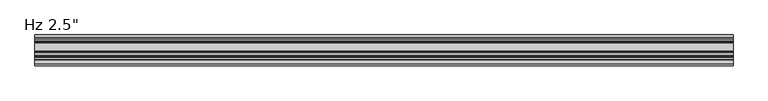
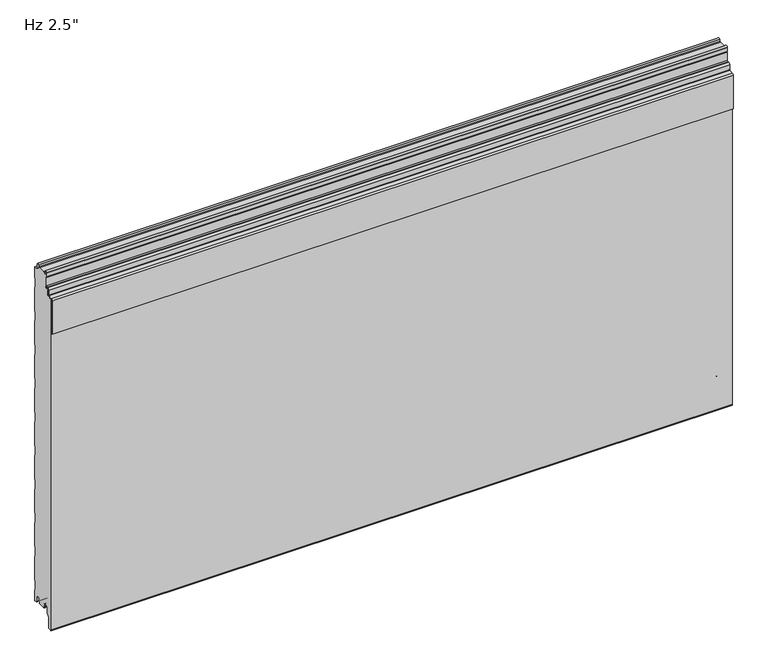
"""IFC4 building model written with IfcOpenShell, lengths in millimetres: plate geometry."""

from ifc_helpers import new_model, si_unit, frame, origin, place, context, project, spatial, polyline, circle_curve, source, transform, mapped, element, save
from ifc_brep_helpers import plane_surface, cylinder_surface, revolved_surface, advanced_brep


def plate_ab3201b3(model_context):
    return source(origin(), model_context, "Body", "AdvancedBrep", [
        advanced_brep(
        [(730.0, -42.4008679, 735.9534183), (730.0, -42.4008679, 754.6986183), (730.0, -43.9248679, 754.6986183), (730.0, -43.9248679, 735.9534183), (730.0, -45.4488679, 734.4294183), (730.0, -48.5476679, 734.4294183), (730.0, -52.0020679, 730.9750183), (730.0, -52.0020679, 719.762461), (730.0, -52.6976552, 719.0033606), (730.0, -62.2416507, 717.808533), (730.0, -65.024, 714.7721316), (730.0, -65.0360323, 639.2048183), (730.0, -63.5, 639.2048183), (730.0, -63.5, 714.7721316), (730.0, -62.1088254, 716.2903323), (730.0, -52.5648299, 717.4851599), (730.0, -50.4780679, 719.762461), (730.0, -50.4780679, 730.9750183), (730.0, -48.5476679, 732.9054183), (730.0, -45.4488679, 732.9054183), (-730.0, -42.4008679, 735.9534183), (-730.0, -45.4488679, 732.9054183), (-730.0, -48.5476679, 732.9054183), (-730.0, -50.4780679, 730.9750183), (-730.0, -50.4780679, 719.762461), (-730.0, -52.5648299, 717.4851599), (-730.0, -62.1088254, 716.2903323), (-730.0, -63.5, 714.7721316), (-730.0, -63.5, 639.2048183), (-730.0, -65.0360323, 639.2048183), (-730.0, -65.0360323, 714.7721316), (-730.0, -62.2416507, 717.808533), (-730.0, -52.6976552, 719.0033606), (-730.0, -52.0020679, 719.762461), (-730.0, -52.0020679, 730.9750183), (-730.0, -48.5476679, 734.4294183), (-730.0, -45.4488679, 734.4294183), (-730.0, -43.9248679, 735.9534183), (-730.0, -43.9248679, 754.6986183), (-730.0, -42.4008679, 754.6986183)],
        [
            (0, 1),
            (1, 2),
            (2, 3),
            (3, 4, circle_curve(frame((730.0, -45.4488679, 735.9534183), z_axis=(-1.0, 0.0, 0.0), x_axis=(0.0, 1.0, 0.0)), 1.524)),
            (4, 5),
            (5, 6, circle_curve(frame((730.0, -48.5476679, 730.9750183), z_axis=(1.0, 0.0, 0.0), x_axis=(0.0, 1.0, 0.0)), 3.4544)),
            (6, 7),
            (7, 8, circle_curve(frame((730.0, -52.7640679, 719.762461), z_axis=(-1.0, 0.0, 0.0), x_axis=(0.0, 1.0, 0.0)), 0.762)),
            (8, 9),
            (9, 10, circle_curve(frame((730.0, -61.976, 714.7721316), z_axis=(1.0, 0.0, 0.0), x_axis=(0.0, 1.0, 0.0)), 3.048)),
            (10, 11),
            (11, 12),
            (12, 13),
            (13, 14, circle_curve(frame((730.0, -61.976, 714.7721316), z_axis=(-1.0, 0.0, 0.0), x_axis=(0.0, 1.0, 0.0)), 1.524)),
            (14, 15),
            (15, 16, circle_curve(frame((730.0, -52.7640679, 719.762461), z_axis=(1.0, 0.0, 0.0), x_axis=(0.0, 1.0, 0.0)), 2.286)),
            (16, 17),
            (17, 18, circle_curve(frame((730.0, -48.5476679, 730.9750183), z_axis=(-1.0, 0.0, 0.0), x_axis=(0.0, 1.0, 0.0)), 1.9304)),
            (18, 19),
            (19, 0, circle_curve(frame((730.0, -45.4488679, 735.9534183), z_axis=(1.0, 0.0, 0.0), x_axis=(0.0, 1.0, 0.0)), 3.048)),
            (20, 21, circle_curve(frame((-730.0, -45.4488679, 735.9534183), z_axis=(-1.0, 0.0, 0.0), x_axis=(0.0, 1.0, 0.0)), 3.048)),
            (21, 22),
            (22, 23, circle_curve(frame((-730.0, -48.5476679, 730.9750183), z_axis=(1.0, 0.0, 0.0), x_axis=(0.0, 1.0, 0.0)), 1.9304)),
            (23, 24),
            (24, 25, circle_curve(frame((-730.0, -52.7640679, 719.762461), z_axis=(-1.0, 0.0, 0.0), x_axis=(0.0, 1.0, 0.0)), 2.286)),
            (25, 26),
            (26, 27, circle_curve(frame((-730.0, -61.976, 714.7721316), z_axis=(1.0, 0.0, 0.0), x_axis=(0.0, 1.0, 0.0)), 1.524)),
            (27, 28),
            (28, 29),
            (29, 30),
            (30, 31, circle_curve(frame((-730.0, -61.976, 714.7721316), z_axis=(-1.0, 0.0, 0.0), x_axis=(0.0, 1.0, 0.0)), 3.048)),
            (31, 32),
            (32, 33, circle_curve(frame((-730.0, -52.7640679, 719.762461), z_axis=(1.0, 0.0, 0.0), x_axis=(0.0, 1.0, 0.0)), 0.762)),
            (33, 34),
            (34, 35, circle_curve(frame((-730.0, -48.5476679, 730.9750183), z_axis=(-1.0, 0.0, 0.0), x_axis=(0.0, 1.0, 0.0)), 3.4544)),
            (35, 36),
            (36, 37, circle_curve(frame((-730.0, -45.4488679, 735.9534183), z_axis=(1.0, 0.0, 0.0), x_axis=(0.0, 1.0, 0.0)), 1.524)),
            (37, 38),
            (38, 39),
            (39, 20),
            (2, 38),
            (37, 3),
            (15, 25),
            (24, 16),
            (7, 33),
            (32, 8),
            (5, 35),
            (34, 6),
            (1, 39),
            (36, 4),
            (9, 31),
            (30, 10),
            (13, 27),
            (26, 14),
            (0, 20),
            (12, 28),
            (29, 11),
            (23, 17),
            (18, 22),
            (21, 19),
        ],
        [
            plane_surface(frame((730.0, -63.5, 754.6986183), z_axis=(1.0, 0.0, 0.0), x_axis=(0.0, 0.0, -1.0))),
            plane_surface(frame((-730.0, -63.5, 754.6986183), z_axis=(-1.0, 0.0, 0.0), x_axis=(0.0, 0.0, -1.0))),
            plane_surface(frame((730.0, -43.9248679, 735.9534183), z_axis=(0.0, -1.0, 0.0), x_axis=(-1.0, 0.0, 0.0))),
            cylinder_surface(frame((730.0, -52.7640679, 719.762461), z_axis=(1.0, 0.0, 0.0), x_axis=(0.0, 1.0, 0.0)), 2.286),
            revolved_surface(polyline([(-730.0, -52.0020679, 719.762461), (730.0, -52.0020679, 719.762461)]), (730.0, -52.7640679, 719.762461), (-1.0, 0.0, 0.0)),
            cylinder_surface(frame((730.0, -48.5476679, 730.9750183), z_axis=(1.0, 0.0, 0.0), x_axis=(0.0, 1.0, 0.0)), 3.4544),
            plane_surface(frame((730.0, -43.9248679, 754.6986183), z_axis=(0.0, 0.0, 1.0), x_axis=(-1.0, 0.0, 0.0))),
            revolved_surface(polyline([(-730.0, -43.9248679, 735.9534183), (730.0, -43.9248679, 735.9534183)]), (730.0, -45.4488679, 735.9534183), (-1.0, 0.0, 0.0)),
            cylinder_surface(frame((730.0, -61.976, 714.7721316), z_axis=(1.0, 0.0, 0.0), x_axis=(0.0, 1.0, 0.0)), 3.048),
            revolved_surface(polyline([(-730.0, -60.452, 714.7721316), (730.0, -60.452, 714.7721316)]), (730.0, -61.976, 714.7721316), (-1.0, 0.0, 0.0)),
            plane_surface(frame((730.0, -42.4008679, 754.6986183), z_axis=(0.0, 1.0, 0.0), x_axis=(-1.0, 0.0, 0.0))),
            plane_surface(frame((730.0, -52.5648299, 717.4851599), z_axis=(0.0, 0.12422187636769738, -0.9922544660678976), x_axis=(-1.0, 0.0, 0.0))),
            plane_surface(frame((730.0, -63.5, 714.7721316), z_axis=(0.0, 1.0, 0.0), x_axis=(-1.0, 0.0, 0.0))),
            plane_surface(frame((730.0, -62.2416507, 717.808533), z_axis=(0.0, -0.12422187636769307, 0.9922544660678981), x_axis=(-1.0, 0.0, 0.0))),
            plane_surface(frame((730.0, -48.5476679, 734.4294183), z_axis=(0.0, 0.0, 1.0), x_axis=(-1.0, 0.0, 0.0))),
            plane_surface(frame((730.0, -65.0360323, 639.2048183), z_axis=(0.0, -1.0, 0.0), x_axis=(-1.0, 0.0, 0.0))),
            plane_surface(frame((730.0, -63.5, 639.2048183), z_axis=(0.0, 0.0, -1.0), x_axis=(-1.0, 0.0, 0.0))),
            plane_surface(frame((730.0, -50.4780679, 730.9750183), z_axis=(0.0, 1.0, 0.0), x_axis=(-1.0, 0.0, 0.0))),
            plane_surface(frame((730.0, -45.4488679, 732.9054183), z_axis=(0.0, 0.0, -1.0), x_axis=(-1.0, 0.0, 0.0))),
            plane_surface(frame((730.0, -52.0020679, 719.762461), z_axis=(0.0, -1.0, 0.0), x_axis=(-1.0, 0.0, 0.0))),
            revolved_surface(polyline([(-730.0, -46.6172679, 730.9750183), (730.0, -46.6172679, 730.9750183)]), (730.0, -48.5476679, 730.9750183), (-1.0, 0.0, 0.0)),
            cylinder_surface(frame((730.0, -45.4488679, 735.9534183), z_axis=(1.0, 0.0, 0.0), x_axis=(0.0, 1.0, 0.0)), 3.048),
        ],
        [
            (0, [[1, 2, 3, 4, 5, 6, 7, 8, 9, 10, 11, 12, 13, 14, 15, 16, 17, 18, 19, 20]]),
            (1, [[21, 22, 23, 24, 25, 26, 27, 28, 29, 30, 31, 32, 33, 34, 35, 36, 37, 38, 39, 40]]),
            (2, [[41, -38, 42, -3]]),
            (3, [[43, -25, 44, -16]]),
            (4, [[45, -33, 46, -8]]),
            (5, [[47, -35, 48, -6]]),
            (6, [[49, -39, -41, -2]]),
            (7, [[-42, -37, 50, -4]]),
            (8, [[51, -31, 52, -10]]),
            (9, [[53, -27, 54, -14]]),
            (10, [[55, -40, -49, -1]]),
            (11, [[-54, -26, -43, -15]]),
            (12, [[56, -28, -53, -13]]),
            (13, [[-46, -32, -51, -9]]),
            (14, [[-50, -36, -47, -5]]),
            (15, [[-52, -30, 57, -11]]),
            (16, [[-57, -29, -56, -12]]),
            (17, [[-44, -24, 58, -17]]),
            (18, [[59, -22, 60, -19]]),
            (19, [[-48, -34, -45, -7]]),
            (20, [[-58, -23, -59, -18]]),
            (21, [[-60, -21, -55, -20]]),
        ],
    ),
        advanced_brep(
        [(-730.0, -35.170875, 1.0316999), (-730.0, -34.0014003, 2.2328239), (-730.0, -34.0014003, 5.9912173), (-730.0, -35.3998791, 5.9912173), (-730.0, -35.3998791, 8.6903283), (-730.0, -38.7498744, 12.0403236), (-730.0, -43.1498656, 12.0403236), (-730.0, -46.4998609, 8.6903283), (-730.0, -46.4998609, -3.1205608), (-730.0, -46.9977778, -4.3226385), (-730.0, -52.4998489, -9.8247096), (-730.0, -52.4998489, -31.9198392), (-730.0, -54.7184509, -34.5765709), (-730.0, -59.7002718, -35.0125699), (-730.0, -62.4945967, -32.4521176), (-730.0, -62.5, 713.515622), (-730.0, -60.7149259, 715.4669057), (-730.0, -52.2539491, 716.221161), (-730.0, -49.4906462, 719.3653654), (-730.0, -49.4906462, 729.4583308), (-730.0, -48.5392375, 730.4097394), (-730.0, -45.3955822, 730.4097394), (-730.0, -41.3961292, 734.4091924), (-730.0, -41.3961292, 755.5895515), (-730.0, -43.376977, 756.7334028), (-730.0, -43.0217167, 765.706811), (-730.0, -38.8211391, 765.7037148), (-730.0, -38.5767242, 761.6977997), (-730.0, -36.7819116, 759.9686884), (-730.0, -33.997365, 759.9686884), (-730.0, -33.997365, 760.9686884), (-730.0, -35.584865, 760.9686884), (-730.0, -34.5535534, 762.0), (-730.0, -18.6184525, 762.0), (-730.0, -17.5871409, 760.9686884), (-730.0, -19.0015288, 760.9686884), (-730.0, -19.0015288, 759.9686884), (-730.0, -16.6743462, 759.9686884), (-730.0, -14.9256429, 761.6513685), (-730.0, -14.7059822, 765.7921924), (-730.0, -10.4046442, 765.7931719), (-730.0, -9.9974365, 757.3016499), (-730.0, -6.0026007, 753.4787013), (-730.0, -1.0, 753.4787013), (-730.0, -1.0, 728.9790963), (-730.0, -2.2002307, 727.5934634), (-730.0, -2.2002307, 708.2182971), (-730.0, -1.0, 706.8326641), (-730.0, -1.0, 652.7792487), (-730.0, -2.2002307, 651.3936158), (-730.0, -2.2002307, 632.0184495), (-730.0, -1.0, 630.6328165), (-730.0, -1.0, 576.5794011), (-730.0, -2.2002307, 575.1937682), (-730.0, -2.2002307, 555.8186019), (-730.0, -1.0, 554.4329689), (-730.0, -1.0, 500.3795535), (-730.0, -2.2002307, 498.9939206), (-730.0, -2.2002307, 479.6187543), (-730.0, -1.0, 478.2331213), (-730.0, -1.0, 424.1797059), (-730.0, -2.2002307, 422.794073), (-730.0, -2.2002307, 403.4189067), (-730.0, -1.0, 402.0332737), (-730.0, -1.0, 347.9798583), (-730.0, -2.2002307, 346.5942254), (-730.0, -2.2002307, 327.2190591), (-730.0, -1.0, 325.8334261), (-730.0, -1.0, 271.7800107), (-730.0, -2.2002307, 270.3943778), (-730.0, -2.2002307, 251.0192115), (-730.0, -1.0, 249.6335785), (-730.0, -1.0, 195.5801631), (-730.0, -2.2002307, 194.1945302), (-730.0, -2.2002307, 174.8193639), (-730.0, -1.0, 173.4337309), (-730.0, -1.0, 119.3803155), (-730.0, -2.2002307, 117.9946826), (-730.0, -2.2002307, 98.6195163), (-730.0, -1.0, 97.2338833), (-730.0, -1.0, 43.1804679), (-730.0, -2.2002307, 41.794835), (-730.0, -2.2002307, 22.4196687), (-730.0, -0.9999916, 21.034026), (-730.0, -0.9999916, -3.4662506), (-730.0, -5.2315389, -3.4662506), (-730.0, -7.0015331, -1.6962564), (-730.0, -7.0015331, 8.7237222), (-730.0, -10.301529, 12.023718), (-730.0, -14.7015202, 12.023718), (-730.0, -18.0015159, 8.7237223), (-730.0, -18.0015159, 6.0315125), (-730.0, -19.0015105, 6.0315125), (-730.0, -19.0015105, 2.0313089), (-730.0, -18.0015192, 1.0313117), (-730.0, -19.0328308, 0.0), (-730.0, -34.1391751, 0.0), (730.0, -35.170875, 1.0316999), (730.0, -34.1391751, 0.0), (730.0, -19.0328308, 0.0), (730.0, -18.0015192, 1.0313117), (730.0, -19.0015105, 2.0313089), (730.0, -19.0015105, 6.0315125), (730.0, -18.0015159, 6.0315125), (730.0, -18.0015159, 8.7237223), (730.0, -14.7015202, 12.023718), (730.0, -10.301529, 12.023718), (730.0, -7.0015331, 8.7237222), (730.0, -7.0015331, -1.6962564), (730.0, -5.2315389, -3.4662506), (730.0, -0.9999916, -3.4662506), (730.0, -0.9999916, 21.034026), (730.0, -2.2002307, 22.4196687), (730.0, -2.2002307, 41.794835), (730.0, -1.0, 43.1804679), (730.0, -1.0, 97.2338833), (730.0, -2.2002307, 98.6195163), (730.0, -2.2002307, 117.9946826), (730.0, -1.0, 119.3803155), (730.0, -1.0, 173.4337309), (730.0, -2.2002307, 174.8193639), (730.0, -2.2002307, 194.1945302), (730.0, -1.0, 195.5801631), (730.0, -1.0, 249.6335785), (730.0, -2.2002307, 251.0192115), (730.0, -2.2002307, 270.3943778), (730.0, -1.0, 271.7800107), (730.0, -1.0, 325.8334261), (730.0, -2.2002307, 327.2190591), (730.0, -2.2002307, 346.5942254), (730.0, -1.0, 347.9798583), (730.0, -1.0, 402.0332737), (730.0, -2.2002307, 403.4189067), (730.0, -2.2002307, 422.794073), (730.0, -1.0, 424.1797059), (730.0, -1.0, 478.2331213), (730.0, -2.2002307, 479.6187543), (730.0, -2.2002307, 498.9939206), (730.0, -1.0, 500.3795535), (730.0, -1.0, 554.4329689), (730.0, -2.2002307, 555.8186019), (730.0, -2.2002307, 575.1937682), (730.0, -1.0, 576.5794011), (730.0, -1.0, 630.6328165), (730.0, -2.2002307, 632.0184495), (730.0, -2.2002307, 651.3936158), (730.0, -1.0, 652.7792487), (730.0, -1.0, 706.8326641), (730.0, -2.2002307, 708.2182971), (730.0, -2.2002307, 727.5934634), (730.0, -1.0, 728.9790963), (730.0, -1.0, 753.4787013), (730.0, -6.0026007, 753.4787013), (730.0, -9.9974365, 757.3016499), (730.0, -10.4046442, 765.7931719), (730.0, -14.7059822, 765.7921924), (730.0, -14.9256429, 761.6513685), (730.0, -16.6743462, 759.9686884), (730.0, -19.0015288, 759.9686884), (730.0, -19.0015288, 760.9686884), (730.0, -17.5871409, 760.9686884), (730.0, -18.6184525, 762.0), (730.0, -34.5535534, 762.0), (730.0, -35.584865, 760.9686884), (730.0, -33.997365, 760.9686884), (730.0, -33.997365, 759.9686884), (730.0, -36.7819116, 759.9686884), (730.0, -38.5767242, 761.6977997), (730.0, -38.8211391, 765.7037148), (730.0, -43.0217167, 765.706811), (730.0, -43.376977, 756.7334028), (730.0, -41.3961292, 755.5895515), (730.0, -41.3961292, 734.4091924), (730.0, -45.3955822, 730.4097394), (730.0, -48.5392375, 730.4097394), (730.0, -49.4906462, 729.4583308), (730.0, -49.4906462, 719.3653654), (730.0, -52.2539491, 716.221161), (730.0, -60.7149259, 715.4669057), (730.0, -62.5, 713.515622), (730.0, -62.5, -32.4521176), (730.0, -59.7002718, -35.0125699), (730.0, -54.7184509, -34.5765709), (730.0, -52.4998489, -31.9198392), (730.0, -52.4998489, -9.8247096), (730.0, -46.9977778, -4.3226385), (730.0, -46.4998609, -3.1205608), (730.0, -46.4998609, 8.6903283), (730.0, -43.1498656, 12.0403236), (730.0, -38.7498744, 12.0403236), (730.0, -35.3998791, 8.6903283), (730.0, -35.3998791, 5.9912173), (730.0, -34.0014003, 5.9912173), (730.0, -34.0014003, 2.2328239)],
        [
            (0, 1, circle_curve(frame((-730.0, -35.2013969, 2.2313092), z_axis=(1.0, 0.0, 0.0), x_axis=(0.0, 0.0, -1.0)), 1.1999976)),
            (1, 2),
            (2, 3),
            (3, 4),
            (4, 5, circle_curve(frame((-730.0, -38.7498744, 8.6903283), z_axis=(1.0, 0.0, 0.0), x_axis=(0.0, 0.0, -1.0)), 3.3499953)),
            (5, 6),
            (6, 7, circle_curve(frame((-730.0, -43.1498656, 8.6903283), z_axis=(1.0, 0.0, 0.0), x_axis=(0.0, 0.0, -1.0)), 3.3499953)),
            (7, 8),
            (8, 9, circle_curve(frame((-730.0, -48.1998555, -3.1205608), z_axis=(-1.0, 0.0, 0.0), x_axis=(0.0, 0.0, -1.0)), 1.6999946)),
            (9, 10),
            (10, 11),
            (11, 12, circle_curve(frame((-730.0, -55.1998415, -31.9198392), z_axis=(-1.0, 0.0, 0.0), x_axis=(0.0, 0.0, -1.0)), 2.6999926)),
            (12, 13),
            (13, 14, circle_curve(frame((-730.0, -59.9243575, -32.4521176), z_axis=(-1.0, 0.0, 0.0), x_axis=(0.0, 0.0, -1.0)), 2.5702393)),
            (14, 15),
            (15, 16, circle_curve(frame((-730.0, -60.5409784, 713.515622), z_axis=(-1.0, 0.0, 0.0), x_axis=(0.0, 0.0, -1.0)), 1.9590216)),
            (16, 17),
            (17, 18, circle_curve(frame((-730.0, -52.5180321, 719.2396267), z_axis=(1.0, 0.0, 0.0), x_axis=(0.0, 0.0, -1.0)), 3.0299959)),
            (18, 19),
            (19, 20, circle_curve(frame((-730.0, -48.5392375, 729.4583308), z_axis=(-1.0, 0.0, 0.0), x_axis=(0.0, 0.0, -1.0)), 0.9514087)),
            (20, 21),
            (21, 22, circle_curve(frame((-730.0, -45.3955822, 734.4091924), z_axis=(1.0, 0.0, 0.0), x_axis=(0.0, 0.0, -1.0)), 3.9994529)),
            (22, 23),
            (23, 24),
            (24, 25),
            (25, 26, circle_curve(frame((-730.0, -40.921488, 765.6236622), z_axis=(-1.0, 0.0, 0.0), x_axis=(0.0, 0.0, -1.0)), 2.1018739)),
            (26, 27),
            (27, 28, circle_curve(frame((-730.0, -36.7383506, 761.8099653), z_axis=(1.0, 0.0, 0.0), x_axis=(0.0, 0.0, -1.0)), 1.8417922)),
            (28, 29),
            (29, 30),
            (30, 31),
            (31, 32),
            (32, 33),
            (33, 34),
            (34, 35),
            (35, 36),
            (36, 37),
            (37, 38, circle_curve(frame((-730.0, -16.6743462, 761.7186869), z_axis=(1.0, 0.0, 0.0), x_axis=(0.0, 0.0, 1.0)), 1.7499985)),
            (38, 39),
            (39, 40, circle_curve(frame((-730.0, -12.5552871, 765.6781032), z_axis=(-1.0, 0.0, 0.0), x_axis=(0.0, 0.0, 1.0)), 2.153719)),
            (40, 41),
            (41, 42, circle_curve(frame((-730.0, -5.9867338, 757.4939817), z_axis=(1.0, 0.0, 0.0), x_axis=(0.0, 0.0, 1.0)), 4.0153117)),
            (42, 43),
            (43, 44),
            (44, 45),
            (45, 46),
            (46, 47),
            (47, 48),
            (48, 49),
            (49, 50),
            (50, 51),
            (51, 52),
            (52, 53),
            (53, 54),
            (54, 55),
            (55, 56),
            (56, 57),
            (57, 58),
            (58, 59),
            (59, 60),
            (60, 61),
            (61, 62),
            (62, 63),
            (63, 64),
            (64, 65),
            (65, 66),
            (66, 67),
            (67, 68),
            (68, 69),
            (69, 70),
            (70, 71),
            (71, 72),
            (72, 73),
            (73, 74),
            (74, 75),
            (75, 76),
            (76, 77),
            (77, 78),
            (78, 79),
            (79, 80),
            (80, 81),
            (81, 82),
            (82, 83),
            (83, 84),
            (84, 85),
            (85, 86, circle_curve(frame((-730.0, -5.2315389, -1.6962564), z_axis=(-1.0, 0.0, 0.0), x_axis=(0.0, 0.0, 1.0)), 1.7699942)),
            (86, 87),
            (87, 88, circle_curve(frame((-730.0, -10.301529, 8.7237222), z_axis=(1.0, 0.0, 0.0), x_axis=(0.0, 0.0, 1.0)), 3.2999959)),
            (88, 89),
            (89, 90, circle_curve(frame((-730.0, -14.7015202, 8.7237223), z_axis=(1.0, 0.0, 0.0), x_axis=(0.0, 0.0, 1.0)), 3.2999957)),
            (90, 91),
            (91, 92),
            (92, 93),
            (93, 94, circle_curve(frame((-730.0, -18.0015133, 2.0313089), z_axis=(1.0, 0.0, 0.0), x_axis=(0.0, 0.0, 1.0)), 0.9999972)),
            (94, 95),
            (95, 96),
            (96, 0),
            (97, 98),
            (98, 99),
            (99, 100),
            (100, 101, circle_curve(frame((730.0, -18.0015133, 2.0313089), z_axis=(-1.0, 0.0, 0.0), x_axis=(0.0, 0.0, 1.0)), 0.9999972)),
            (101, 102),
            (102, 103),
            (103, 104),
            (104, 105, circle_curve(frame((730.0, -14.7015202, 8.7237223), z_axis=(-1.0, 0.0, 0.0), x_axis=(0.0, 0.0, 1.0)), 3.2999957)),
            (105, 106),
            (106, 107, circle_curve(frame((730.0, -10.301529, 8.7237222), z_axis=(-1.0, 0.0, 0.0), x_axis=(0.0, 0.0, 1.0)), 3.2999959)),
            (107, 108),
            (108, 109, circle_curve(frame((730.0, -5.2315389, -1.6962564), z_axis=(1.0, 0.0, 0.0), x_axis=(0.0, 0.0, 1.0)), 1.7699942)),
            (109, 110),
            (110, 111),
            (111, 112),
            (112, 113),
            (113, 114),
            (114, 115),
            (115, 116),
            (116, 117),
            (117, 118),
            (118, 119),
            (119, 120),
            (120, 121),
            (121, 122),
            (122, 123),
            (123, 124),
            (124, 125),
            (125, 126),
            (126, 127),
            (127, 128),
            (128, 129),
            (129, 130),
            (130, 131),
            (131, 132),
            (132, 133),
            (133, 134),
            (134, 135),
            (135, 136),
            (136, 137),
            (137, 138),
            (138, 139),
            (139, 140),
            (140, 141),
            (141, 142),
            (142, 143),
            (143, 144),
            (144, 145),
            (145, 146),
            (146, 147),
            (147, 148),
            (148, 149),
            (149, 150),
            (150, 151),
            (151, 152),
            (152, 153, circle_curve(frame((730.0, -5.9867338, 757.4939817), z_axis=(-1.0, 0.0, 0.0), x_axis=(0.0, 0.0, 1.0)), 4.0153117)),
            (153, 154),
            (154, 155, circle_curve(frame((730.0, -12.5552871, 765.6781032), z_axis=(1.0, 0.0, 0.0), x_axis=(0.0, 0.0, 1.0)), 2.153719)),
            (155, 156),
            (156, 157, circle_curve(frame((730.0, -16.6743462, 761.7186869), z_axis=(-1.0, 0.0, 0.0), x_axis=(0.0, 0.0, 1.0)), 1.7499985)),
            (157, 158),
            (158, 159),
            (159, 160),
            (160, 161),
            (161, 162),
            (162, 163),
            (163, 164),
            (164, 165),
            (165, 166),
            (166, 167, circle_curve(frame((730.0, -36.7383506, 761.8099653), z_axis=(-1.0, 0.0, 0.0), x_axis=(0.0, 0.0, -1.0)), 1.8417922)),
            (167, 168),
            (168, 169, circle_curve(frame((730.0, -40.921488, 765.6236622), z_axis=(1.0, 0.0, 0.0), x_axis=(0.0, 0.0, -1.0)), 2.1018739)),
            (169, 170),
            (170, 171),
            (171, 172),
            (172, 173, circle_curve(frame((730.0, -45.3955822, 734.4091924), z_axis=(-1.0, 0.0, 0.0), x_axis=(0.0, 0.0, -1.0)), 3.9994529)),
            (173, 174),
            (174, 175, circle_curve(frame((730.0, -48.5392375, 729.4583308), z_axis=(1.0, 0.0, 0.0), x_axis=(0.0, 0.0, -1.0)), 0.9514087)),
            (175, 176),
            (176, 177, circle_curve(frame((730.0, -52.5180321, 719.2396267), z_axis=(-1.0, 0.0, 0.0), x_axis=(0.0, 0.0, -1.0)), 3.0299959)),
            (177, 178),
            (178, 179, circle_curve(frame((730.0, -60.5409784, 713.515622), z_axis=(1.0, 0.0, 0.0), x_axis=(0.0, 0.0, -1.0)), 1.9590216)),
            (179, 180),
            (180, 181, circle_curve(frame((730.0, -59.9243575, -32.4521176), z_axis=(1.0, 0.0, 0.0), x_axis=(0.0, 0.0, -1.0)), 2.5702393)),
            (181, 182),
            (182, 183, circle_curve(frame((730.0, -55.1998415, -31.9198392), z_axis=(1.0, 0.0, 0.0), x_axis=(0.0, 0.0, -1.0)), 2.6999926)),
            (183, 184),
            (184, 185),
            (185, 186, circle_curve(frame((730.0, -48.1998555, -3.1205608), z_axis=(1.0, 0.0, 0.0), x_axis=(0.0, 0.0, -1.0)), 1.6999946)),
            (186, 187),
            (187, 188, circle_curve(frame((730.0, -43.1498656, 8.6903283), z_axis=(-1.0, 0.0, 0.0), x_axis=(0.0, 0.0, -1.0)), 3.3499953)),
            (188, 189),
            (189, 190, circle_curve(frame((730.0, -38.7498744, 8.6903283), z_axis=(-1.0, 0.0, 0.0), x_axis=(0.0, 0.0, -1.0)), 3.3499953)),
            (190, 191),
            (191, 192),
            (192, 193),
            (193, 97, circle_curve(frame((730.0, -35.2013969, 2.2313092), z_axis=(-1.0, 0.0, 0.0), x_axis=(0.0, 0.0, -1.0)), 1.1999976)),
            (96, 98),
            (97, 0),
            (95, 99),
            (32, 162),
            (161, 33),
            (31, 163),
            (30, 164),
            (29, 165),
            (28, 166),
            (27, 167),
            (26, 168),
            (25, 169),
            (24, 170),
            (23, 171),
            (22, 172),
            (21, 173),
            (20, 174),
            (19, 175),
            (18, 176),
            (17, 177),
            (16, 178),
            (15, 179),
            (14, 180),
            (13, 181),
            (12, 182),
            (11, 183),
            (10, 184),
            (9, 185),
            (8, 186),
            (7, 187),
            (6, 188),
            (5, 189),
            (4, 190),
            (3, 191),
            (2, 192),
            (1, 193),
            (94, 100),
            (93, 101),
            (92, 102),
            (91, 103),
            (90, 104),
            (89, 105),
            (88, 106),
            (87, 107),
            (86, 108),
            (85, 109),
            (84, 110),
            (83, 111),
            (82, 112),
            (81, 113),
            (80, 114),
            (79, 115),
            (78, 116),
            (77, 117),
            (76, 118),
            (75, 119),
            (74, 120),
            (73, 121),
            (72, 122),
            (71, 123),
            (70, 124),
            (69, 125),
            (68, 126),
            (67, 127),
            (66, 128),
            (65, 129),
            (64, 130),
            (63, 131),
            (62, 132),
            (61, 133),
            (60, 134),
            (59, 135),
            (58, 136),
            (57, 137),
            (56, 138),
            (55, 139),
            (54, 140),
            (53, 141),
            (52, 142),
            (51, 143),
            (50, 144),
            (49, 145),
            (48, 146),
            (47, 147),
            (46, 148),
            (45, 149),
            (44, 150),
            (43, 151),
            (42, 152),
            (41, 153),
            (40, 154),
            (39, 155),
            (38, 156),
            (37, 157),
            (36, 158),
            (35, 159),
            (34, 160),
        ],
        [
            plane_surface(frame((-730.0, -62.5, 381.0), z_axis=(-1.0, 0.0, 0.0), x_axis=(0.0, -1.0, 0.0))),
            plane_surface(frame((730.0, -62.5, 381.0), z_axis=(1.0, 0.0, 0.0), x_axis=(0.0, -1.0, 0.0))),
            plane_surface(frame((-730.0, -35.170875, 1.0316999), z_axis=(0.0, -0.7071067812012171, -0.707106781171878), x_axis=(1.0, 0.0, 0.0))),
            plane_surface(frame((-730.0, -34.1391751, 0.0), z_axis=(0.0, 0.0, -1.0), x_axis=(1.0, 0.0, 0.0))),
            plane_surface(frame((-730.0, -33.1391751, 762.0), z_axis=(0.0, 0.0, 1.0), x_axis=(1.0, 0.0, 0.0))),
            plane_surface(frame((-730.0, -34.5535534, 762.0), z_axis=(0.0, -0.7071067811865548, 0.7071067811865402), x_axis=(1.0, 0.0, 0.0))),
            plane_surface(frame((-730.0, -35.584865, 760.9686884), z_axis=(0.0, 0.0, -1.0), x_axis=(1.0, 0.0, 0.0))),
            plane_surface(frame((-730.0, -33.997365, 760.9686884), z_axis=(0.0, -1.0, 0.0), x_axis=(1.0, 0.0, 0.0))),
            plane_surface(frame((-730.0, -33.997365, 759.9686884), z_axis=(0.0, 0.0, 1.0), x_axis=(1.0, 0.0, 0.0))),
            revolved_surface(polyline([(730.0, -36.7383506, 759.9681731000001), (-730.0, -36.7383506, 759.9681731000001)]), (-730.0, -36.7383506, 761.8099653), (1.0, 0.0, 0.0)),
            plane_surface(frame((-730.0, -38.5767242, 761.6977997), z_axis=(0.0, 0.9981438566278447, 0.06090025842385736), x_axis=(1.0, 0.0, 0.0))),
            cylinder_surface(frame((-730.0, -40.921488, 765.6236622), z_axis=(-1.0, 0.0, 0.0), x_axis=(0.0, 0.0, -1.0)), 2.1018739),
            plane_surface(frame((-730.0, -43.0217167, 765.706811), z_axis=(0.0, -0.9992172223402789, 0.03955935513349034), x_axis=(1.0, 0.0, 0.0))),
            plane_surface(frame((-730.0, -43.376977, 756.7334028), z_axis=(0.0, -0.5000682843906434, -0.865985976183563), x_axis=(1.0, 0.0, 0.0))),
            plane_surface(frame((-730.0, -41.3961292, 755.5895515), z_axis=(0.0, -1.0, 0.0), x_axis=(1.0, 0.0, 0.0))),
            revolved_surface(polyline([(730.0, -45.3955822, 730.4097395), (-730.0, -45.3955822, 730.4097395)]), (-730.0, -45.3955822, 734.4091924), (1.0, 0.0, 0.0)),
            plane_surface(frame((-730.0, -45.3955822, 730.4097394), z_axis=(0.0, 0.0, 1.0), x_axis=(1.0, 0.0, 0.0))),
            cylinder_surface(frame((-730.0, -48.5392375, 729.4583308), z_axis=(-1.0, 0.0, 0.0), x_axis=(0.0, 0.0, -1.0)), 0.9514087),
            plane_surface(frame((-730.0, -49.4906462, 729.4583308), z_axis=(0.0, -1.0, 0.0), x_axis=(1.0, 0.0, 0.0))),
            revolved_surface(polyline([(730.0, -52.5180321, 716.2096308), (-730.0, -52.5180321, 716.2096308)]), (-730.0, -52.5180321, 719.2396267), (1.0, 0.0, 0.0)),
            plane_surface(frame((-730.0, -52.2539491, 716.221161), z_axis=(0.0, -0.08879306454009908, 0.9960500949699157), x_axis=(1.0, 0.0, 0.0))),
            cylinder_surface(frame((-730.0, -60.5409784, 713.515622), z_axis=(-1.0, 0.0, 0.0), x_axis=(0.0, 0.0, -1.0)), 1.9590216),
            plane_surface(frame((-730.0, -62.5, 713.515622), z_axis=(0.0, -1.0, 0.0), x_axis=(1.0, 0.0, 0.0))),
            cylinder_surface(frame((-730.0, -59.9243575, -32.4521176), z_axis=(-1.0, 0.0, 0.0), x_axis=(0.0, 0.0, -1.0)), 2.5702393),
            plane_surface(frame((-730.0, -59.7002718, -35.0125699), z_axis=(0.0, 0.08718474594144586, -0.9961921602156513), x_axis=(1.0, 0.0, 0.0))),
            cylinder_surface(frame((-730.0, -55.1998415, -31.9198392), z_axis=(-1.0, 0.0, 0.0), x_axis=(0.0, 0.0, -1.0)), 2.6999926),
            plane_surface(frame((-730.0, -52.4998489, -31.9198392), z_axis=(0.0, 1.0, 0.0), x_axis=(1.0, 0.0, 0.0))),
            plane_surface(frame((-730.0, -52.4998489, -9.8247096), z_axis=(0.0, 0.7071067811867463, -0.7071067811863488), x_axis=(1.0, 0.0, 0.0))),
            cylinder_surface(frame((-730.0, -48.1998555, -3.1205608), z_axis=(-1.0, 0.0, 0.0), x_axis=(0.0, 0.0, -1.0)), 1.6999946),
            plane_surface(frame((-730.0, -46.4998609, -3.1205608), z_axis=(0.0, 1.0, 0.0), x_axis=(1.0, 0.0, 0.0))),
            revolved_surface(polyline([(730.0, -43.1498656, 5.340332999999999), (-730.0, -43.1498656, 5.340332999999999)]), (-730.0, -43.1498656, 8.6903283), (1.0, 0.0, 0.0)),
            plane_surface(frame((-730.0, -43.1498656, 12.0403236), z_axis=(0.0, 0.0, -1.0), x_axis=(1.0, 0.0, 0.0))),
            revolved_surface(polyline([(730.0, -38.7498744, 5.340332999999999), (-730.0, -38.7498744, 5.340332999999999)]), (-730.0, -38.7498744, 8.6903283), (1.0, 0.0, 0.0)),
            plane_surface(frame((-730.0, -35.3998791, 8.6903283), z_axis=(0.0, -1.0, 0.0), x_axis=(1.0, 0.0, 0.0))),
            plane_surface(frame((-730.0, -35.3998791, 5.9912173), z_axis=(0.0, 0.0, -1.0), x_axis=(1.0, 0.0, 0.0))),
            plane_surface(frame((-730.0, -34.0014003, 5.9912173), z_axis=(0.0, -1.0, 0.0), x_axis=(1.0, 0.0, 0.0))),
            revolved_surface(polyline([(730.0, -35.2013969, 1.0313116), (-730.0, -35.2013969, 1.0313116)]), (-730.0, -35.2013969, 2.2313092), (1.0, 0.0, 0.0)),
            plane_surface(frame((-730.0, -19.0328308, 0.0), z_axis=(0.0, 0.7071067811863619, -0.7071067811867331), x_axis=(1.0, 0.0, 0.0))),
            revolved_surface(polyline([(730.0, -18.0015133, 3.0313061), (-730.0, -18.0015133, 3.0313061)]), (-730.0, -18.0015133, 2.0313089), (1.0, 0.0, 0.0)),
            plane_surface(frame((-730.0, -19.0015105, 2.0313089), z_axis=(0.0, 1.0, 0.0), x_axis=(1.0, 0.0, 0.0))),
            plane_surface(frame((-730.0, -19.0015105, 6.0315125), z_axis=(0.0, 0.0, -1.0), x_axis=(1.0, 0.0, 0.0))),
            plane_surface(frame((-730.0, -18.0015159, 6.0315125), z_axis=(0.0, 1.0, 0.0), x_axis=(1.0, 0.0, 0.0))),
            revolved_surface(polyline([(730.0, -14.7015202, 12.023718), (-730.0, -14.7015202, 12.023718)]), (-730.0, -14.7015202, 8.7237223), (1.0, 0.0, 0.0)),
            plane_surface(frame((-730.0, -14.7015202, 12.023718), z_axis=(0.0, 0.0, -1.0), x_axis=(1.0, 0.0, 0.0))),
            revolved_surface(polyline([(730.0, -10.301529, 12.0237181), (-730.0, -10.301529, 12.0237181)]), (-730.0, -10.301529, 8.7237222), (1.0, 0.0, 0.0)),
            plane_surface(frame((-730.0, -7.0015331, 8.7237222), z_axis=(0.0, -1.0, 0.0), x_axis=(1.0, 0.0, 0.0))),
            cylinder_surface(frame((-730.0, -5.2315389, -1.6962564), z_axis=(-1.0, 0.0, 0.0), x_axis=(0.0, 0.0, 1.0)), 1.7699942),
            plane_surface(frame((-730.0, -5.2315389, -3.4662506), z_axis=(0.0, 0.0, -1.0), x_axis=(1.0, 0.0, 0.0))),
            plane_surface(frame((-730.0, -0.9999916, -3.4662506), z_axis=(0.0, 1.0, 0.0), x_axis=(1.0, 0.0, 0.0))),
            plane_surface(frame((-730.0, -0.9999916, 21.034026), z_axis=(0.0, 0.7558648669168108, 0.6547276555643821), x_axis=(1.0, 0.0, 0.0))),
            plane_surface(frame((-730.0, -2.2002307, 22.4196687), z_axis=(0.0, 1.0, 0.0), x_axis=(1.0, 0.0, 0.0))),
            plane_surface(frame((-730.0, -2.2002307, 41.794835), z_axis=(0.0, 0.7558648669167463, -0.6547276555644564), x_axis=(1.0, 0.0, 0.0))),
            plane_surface(frame((-730.0, -1.0, 43.1804679), z_axis=(0.0, 1.0, 0.0), x_axis=(1.0, 0.0, 0.0))),
            plane_surface(frame((-730.0, -1.0, 97.2338833), z_axis=(0.0, 0.7558648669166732, 0.6547276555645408), x_axis=(1.0, 0.0, 0.0))),
            plane_surface(frame((-730.0, -2.2002307, 98.6195163), z_axis=(0.0, 1.0, 0.0), x_axis=(1.0, 0.0, 0.0))),
            plane_surface(frame((-730.0, -2.2002307, 117.9946826), z_axis=(0.0, 0.7558648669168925, -0.6547276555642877), x_axis=(1.0, 0.0, 0.0))),
            plane_surface(frame((-730.0, -1.0, 119.3803155), z_axis=(0.0, 1.0, 0.0), x_axis=(1.0, 0.0, 0.0))),
            plane_surface(frame((-730.0, -1.0, 173.4337309), z_axis=(0.0, 0.7558648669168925, 0.6547276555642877), x_axis=(1.0, 0.0, 0.0))),
            plane_surface(frame((-730.0, -2.2002307, 174.8193639), z_axis=(0.0, 1.0, 0.0), x_axis=(1.0, 0.0, 0.0))),
            plane_surface(frame((-730.0, -2.2002307, 194.1945302), z_axis=(0.0, 0.7558648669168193, -0.6547276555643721), x_axis=(1.0, 0.0, 0.0))),
            plane_surface(frame((-730.0, -1.0, 195.5801631), z_axis=(0.0, 1.0, 0.0), x_axis=(1.0, 0.0, 0.0))),
            plane_surface(frame((-730.0, -1.0, 249.6335785), z_axis=(0.0, 0.7558648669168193, 0.6547276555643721), x_axis=(1.0, 0.0, 0.0))),
            plane_surface(frame((-730.0, -2.2002307, 251.0192115), z_axis=(0.0, 1.0, 0.0), x_axis=(1.0, 0.0, 0.0))),
            plane_surface(frame((-730.0, -2.2002307, 270.3943778), z_axis=(0.0, 0.7558648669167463, -0.6547276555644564), x_axis=(1.0, 0.0, 0.0))),
            plane_surface(frame((-730.0, -1.0, 271.7800107), z_axis=(0.0, 1.0, 0.0), x_axis=(1.0, 0.0, 0.0))),
            plane_surface(frame((-730.0, -1.0, 325.8334261), z_axis=(0.0, 0.7558648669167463, 0.6547276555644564), x_axis=(1.0, 0.0, 0.0))),
            plane_surface(frame((-730.0, -2.2002307, 327.2190591), z_axis=(0.0, 1.0, 0.0), x_axis=(1.0, 0.0, 0.0))),
            plane_surface(frame((-730.0, -2.2002307, 346.5942254), z_axis=(0.0, 0.7558648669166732, -0.6547276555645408), x_axis=(1.0, 0.0, 0.0))),
            plane_surface(frame((-730.0, -1.0, 347.9798583), z_axis=(0.0, 1.0, 0.0), x_axis=(1.0, 0.0, 0.0))),
            plane_surface(frame((-730.0, -1.0, 402.0332737), z_axis=(0.0, 0.7558648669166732, 0.6547276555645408), x_axis=(1.0, 0.0, 0.0))),
            plane_surface(frame((-730.0, -2.2002307, 403.4189067), z_axis=(0.0, 1.0, 0.0), x_axis=(1.0, 0.0, 0.0))),
            plane_surface(frame((-730.0, -2.2002307, 422.794073), z_axis=(0.0, 0.755864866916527, -0.6547276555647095), x_axis=(1.0, 0.0, 0.0))),
            plane_surface(frame((-730.0, -1.0, 424.1797059), z_axis=(0.0, 1.0, 0.0), x_axis=(1.0, 0.0, 0.0))),
            plane_surface(frame((-730.0, -1.0, 478.2331213), z_axis=(0.0, 0.755864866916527, 0.6547276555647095), x_axis=(1.0, 0.0, 0.0))),
            plane_surface(frame((-730.0, -2.2002307, 479.6187543), z_axis=(0.0, 1.0, 0.0), x_axis=(1.0, 0.0, 0.0))),
            plane_surface(frame((-730.0, -2.2002307, 498.9939206), z_axis=(0.0, 0.755864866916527, -0.6547276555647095), x_axis=(1.0, 0.0, 0.0))),
            plane_surface(frame((-730.0, -1.0, 500.3795535), z_axis=(0.0, 1.0, 0.0), x_axis=(1.0, 0.0, 0.0))),
            plane_surface(frame((-730.0, -1.0, 554.4329689), z_axis=(0.0, 0.755864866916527, 0.6547276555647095), x_axis=(1.0, 0.0, 0.0))),
            plane_surface(frame((-730.0, -2.2002307, 555.8186019), z_axis=(0.0, 1.0, 0.0), x_axis=(1.0, 0.0, 0.0))),
            plane_surface(frame((-730.0, -2.2002307, 575.1937682), z_axis=(0.0, 0.7558648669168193, -0.6547276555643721), x_axis=(1.0, 0.0, 0.0))),
            plane_surface(frame((-730.0, -1.0, 576.5794011), z_axis=(0.0, 1.0, 0.0), x_axis=(1.0, 0.0, 0.0))),
            plane_surface(frame((-730.0, -1.0, 630.6328165), z_axis=(0.0, 0.7558648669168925, 0.6547276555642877), x_axis=(1.0, 0.0, 0.0))),
            plane_surface(frame((-730.0, -2.2002307, 632.0184495), z_axis=(0.0, 1.0, 0.0), x_axis=(1.0, 0.0, 0.0))),
            plane_surface(frame((-730.0, -2.2002307, 651.3936158), z_axis=(0.0, 0.7558648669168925, -0.6547276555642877), x_axis=(1.0, 0.0, 0.0))),
            plane_surface(frame((-730.0, -1.0, 652.7792487), z_axis=(0.0, 1.0, 0.0), x_axis=(1.0, 0.0, 0.0))),
            plane_surface(frame((-730.0, -1.0, 706.8326641), z_axis=(0.0, 0.7558648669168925, 0.6547276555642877), x_axis=(1.0, 0.0, 0.0))),
            plane_surface(frame((-730.0, -2.2002307, 708.2182971), z_axis=(0.0, 1.0, 0.0), x_axis=(1.0, 0.0, 0.0))),
            plane_surface(frame((-730.0, -2.2002307, 727.5934634), z_axis=(0.0, 0.7558648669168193, -0.6547276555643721), x_axis=(1.0, 0.0, 0.0))),
            plane_surface(frame((-730.0, -1.0, 728.9790963), z_axis=(0.0, 1.0, 0.0), x_axis=(1.0, 0.0, 0.0))),
            plane_surface(frame((-730.0, -1.0, 753.4787013), z_axis=(0.0, 0.0, 1.0), x_axis=(1.0, 0.0, 0.0))),
            revolved_surface(polyline([(730.0, -5.9867338, 761.5092933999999), (-730.0, -5.9867338, 761.5092933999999)]), (-730.0, -5.9867338, 757.4939817), (1.0, 0.0, 0.0)),
            plane_surface(frame((-730.0, -9.9974365, 757.3016499), z_axis=(0.0, 0.9988521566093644, 0.04789957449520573), x_axis=(1.0, 0.0, 0.0))),
            cylinder_surface(frame((-730.0, -12.5552871, 765.6781032), z_axis=(-1.0, 0.0, 0.0), x_axis=(0.0, 0.0, 1.0)), 2.153719),
            plane_surface(frame((-730.0, -14.7059822, 765.7921924), z_axis=(0.0, -0.9985959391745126, 0.05297310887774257), x_axis=(1.0, 0.0, 0.0))),
            revolved_surface(polyline([(730.0, -16.6743462, 763.4686853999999), (-730.0, -16.6743462, 763.4686853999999)]), (-730.0, -16.6743462, 761.7186869), (1.0, 0.0, 0.0)),
            plane_surface(frame((-730.0, -16.6743462, 759.9686884), z_axis=(0.0, 0.0, 1.0), x_axis=(1.0, 0.0, 0.0))),
            plane_surface(frame((-730.0, -19.0015288, 759.9686884), z_axis=(0.0, 1.0, 0.0), x_axis=(1.0, 0.0, 0.0))),
            plane_surface(frame((-730.0, -19.0015288, 760.9686884), z_axis=(0.0, 0.0, -1.0), x_axis=(1.0, 0.0, 0.0))),
            plane_surface(frame((-730.0, -17.5871409, 760.9686884), z_axis=(0.0, 0.7071067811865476, 0.7071067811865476), x_axis=(1.0, 0.0, 0.0))),
        ],
        [
            (0, [[1, 2, 3, 4, 5, 6, 7, 8, 9, 10, 11, 12, 13, 14, 15, 16, 17, 18, 19, 20, 21, 22, 23, 24, 25, 26, 27, 28, 29, 30, 31, 32, 33, 34, 35, 36, 37, 38, 39, 40, 41, 42, 43, 44, 45, 46, 47, 48, 49, 50, 51, 52, 53, 54, 55, 56, 57, 58, 59, 60, 61, 62, 63, 64, 65, 66, 67, 68, 69, 70, 71, 72, 73, 74, 75, 76, 77, 78, 79, 80, 81, 82, 83, 84, 85, 86, 87, 88, 89, 90, 91, 92, 93, 94, 95, 96, 97]]),
            (1, [[98, 99, 100, 101, 102, 103, 104, 105, 106, 107, 108, 109, 110, 111, 112, 113, 114, 115, 116, 117, 118, 119, 120, 121, 122, 123, 124, 125, 126, 127, 128, 129, 130, 131, 132, 133, 134, 135, 136, 137, 138, 139, 140, 141, 142, 143, 144, 145, 146, 147, 148, 149, 150, 151, 152, 153, 154, 155, 156, 157, 158, 159, 160, 161, 162, 163, 164, 165, 166, 167, 168, 169, 170, 171, 172, 173, 174, 175, 176, 177, 178, 179, 180, 181, 182, 183, 184, 185, 186, 187, 188, 189, 190, 191, 192, 193, 194]]),
            (2, [[195, -98, 196, -97]]),
            (3, [[197, -99, -195, -96]]),
            (4, [[198, -162, 199, -33]]),
            (5, [[200, -163, -198, -32]]),
            (6, [[201, -164, -200, -31]]),
            (7, [[202, -165, -201, -30]]),
            (8, [[203, -166, -202, -29]]),
            (9, [[204, -167, -203, -28]]),
            (10, [[205, -168, -204, -27]]),
            (11, [[206, -169, -205, -26]]),
            (12, [[207, -170, -206, -25]]),
            (13, [[208, -171, -207, -24]]),
            (14, [[209, -172, -208, -23]]),
            (15, [[210, -173, -209, -22]]),
            (16, [[211, -174, -210, -21]]),
            (17, [[212, -175, -211, -20]]),
            (18, [[213, -176, -212, -19]]),
            (19, [[214, -177, -213, -18]]),
            (20, [[215, -178, -214, -17]]),
            (21, [[216, -179, -215, -16]]),
            (22, [[217, -180, -216, -15]]),
            (23, [[218, -181, -217, -14]]),
            (24, [[219, -182, -218, -13]]),
            (25, [[220, -183, -219, -12]]),
            (26, [[221, -184, -220, -11]]),
            (27, [[222, -185, -221, -10]]),
            (28, [[223, -186, -222, -9]]),
            (29, [[224, -187, -223, -8]]),
            (30, [[225, -188, -224, -7]]),
            (31, [[226, -189, -225, -6]]),
            (32, [[227, -190, -226, -5]]),
            (33, [[228, -191, -227, -4]]),
            (34, [[229, -192, -228, -3]]),
            (35, [[230, -193, -229, -2]]),
            (36, [[-196, -194, -230, -1]]),
            (37, [[231, -100, -197, -95]]),
            (38, [[232, -101, -231, -94]]),
            (39, [[233, -102, -232, -93]]),
            (40, [[234, -103, -233, -92]]),
            (41, [[235, -104, -234, -91]]),
            (42, [[236, -105, -235, -90]]),
            (43, [[237, -106, -236, -89]]),
            (44, [[238, -107, -237, -88]]),
            (45, [[239, -108, -238, -87]]),
            (46, [[240, -109, -239, -86]]),
            (47, [[241, -110, -240, -85]]),
            (48, [[242, -111, -241, -84]]),
            (49, [[243, -112, -242, -83]]),
            (50, [[244, -113, -243, -82]]),
            (51, [[245, -114, -244, -81]]),
            (52, [[246, -115, -245, -80]]),
            (53, [[247, -116, -246, -79]]),
            (54, [[248, -117, -247, -78]]),
            (55, [[249, -118, -248, -77]]),
            (56, [[250, -119, -249, -76]]),
            (57, [[251, -120, -250, -75]]),
            (58, [[252, -121, -251, -74]]),
            (59, [[253, -122, -252, -73]]),
            (60, [[254, -123, -253, -72]]),
            (61, [[255, -124, -254, -71]]),
            (62, [[256, -125, -255, -70]]),
            (63, [[257, -126, -256, -69]]),
            (64, [[258, -127, -257, -68]]),
            (65, [[259, -128, -258, -67]]),
            (66, [[260, -129, -259, -66]]),
            (67, [[261, -130, -260, -65]]),
            (68, [[262, -131, -261, -64]]),
            (69, [[263, -132, -262, -63]]),
            (70, [[264, -133, -263, -62]]),
            (71, [[265, -134, -264, -61]]),
            (72, [[266, -135, -265, -60]]),
            (73, [[267, -136, -266, -59]]),
            (74, [[268, -137, -267, -58]]),
            (75, [[269, -138, -268, -57]]),
            (76, [[270, -139, -269, -56]]),
            (77, [[271, -140, -270, -55]]),
            (78, [[272, -141, -271, -54]]),
            (79, [[273, -142, -272, -53]]),
            (80, [[274, -143, -273, -52]]),
            (81, [[275, -144, -274, -51]]),
            (82, [[276, -145, -275, -50]]),
            (83, [[277, -146, -276, -49]]),
            (84, [[278, -147, -277, -48]]),
            (85, [[279, -148, -278, -47]]),
            (86, [[280, -149, -279, -46]]),
            (87, [[281, -150, -280, -45]]),
            (88, [[282, -151, -281, -44]]),
            (89, [[283, -152, -282, -43]]),
            (90, [[284, -153, -283, -42]]),
            (91, [[285, -154, -284, -41]]),
            (92, [[286, -155, -285, -40]]),
            (93, [[287, -156, -286, -39]]),
            (94, [[288, -157, -287, -38]]),
            (95, [[289, -158, -288, -37]]),
            (96, [[290, -159, -289, -36]]),
            (97, [[291, -160, -290, -35]]),
            (98, [[-199, -161, -291, -34]]),
        ],
    ),
    ])


if __name__ == "__main__":
    model = new_model("IFC4")
    model_context = context("Model", 3, world=origin())
    ifc_project = project(units=[si_unit("LENGTHUNIT", "METRE", prefix="MILLI")], contexts=[model_context])
    site = spatial("IfcSite", under=ifc_project)
    building = spatial("IfcBuilding", under=site)
    placement = place(None, origin())
    plate_shape = plate_ab3201b3(model_context)
    element("IfcPlate", 1, ObjectType="KIP-30-Karrier-KP-R19-CP-Hz-FL3-8in_SL : Hz 2.5\"", at=placement, inside=building, context=model_context, shape_type="MappedRepresentation", body=[
        mapped(plate_shape, transform((0.0, 0.0, 0.0), x_axis=(1.0, 0.0, 0.0), y_axis=(0.0, 1.0, 0.0), z_axis=(0.0, 0.0, 1.0))),
    ])
    save(model, "model.ifc")
